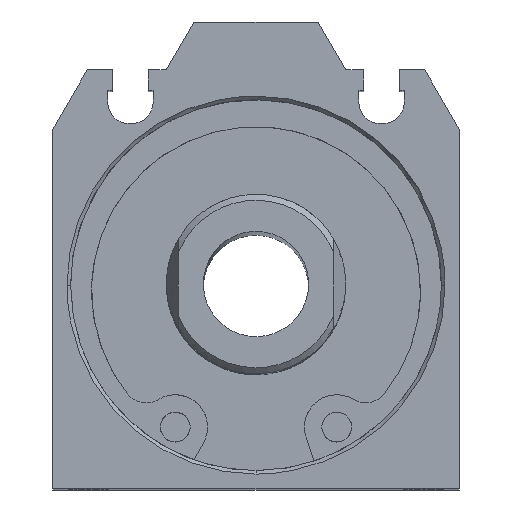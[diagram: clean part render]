
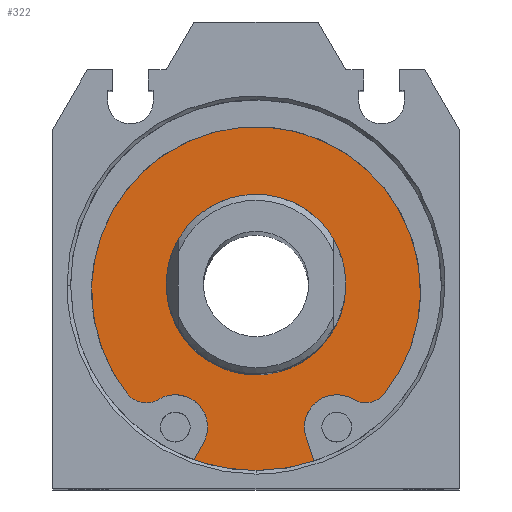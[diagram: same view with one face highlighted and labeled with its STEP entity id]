
A CAD part, top view. The second image highlights one B-rep face of the part: STEP entity #322.
In plain terms, the highlighted free-form (B-spline) face has degree [1, 1] with [2, 2] control points.
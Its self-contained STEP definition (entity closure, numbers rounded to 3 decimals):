
#322=ADVANCED_FACE('',(#688,#689),#690,.T.);
#688=FACE_OUTER_BOUND('',#1829,.T.);
#689=FACE_BOUND('',#1830,.T.);
#690=B_SPLINE_SURFACE_WITH_KNOTS('',1,1,((#1831,#1832),(#1833,#1834)),.UNSPECIFIED.,.F.,.F.,.F.,(2,2),(2,2),(0.0,1.0),(0.0,1.0),.UNSPECIFIED.);
#1829=EDGE_LOOP('',(#3338,#3339,#3340,#3341,#3342,#3343,#3344,#3345,#3346,#3347));
#1830=EDGE_LOOP('',(#3348,#3349));
#1831=CARTESIAN_POINT('',(-52.122,52.122,-3.5));
#1832=CARTESIAN_POINT('',(52.122,52.122,-3.5));
#1833=CARTESIAN_POINT('',(-52.122,-52.122,-3.5));
#1834=CARTESIAN_POINT('',(52.122,-52.122,-3.5));
#3338=ORIENTED_EDGE('',*,*,#4034,.T.);
#3339=ORIENTED_EDGE('',*,*,#4035,.T.);
#3340=ORIENTED_EDGE('',*,*,#4016,.T.);
#3341=ORIENTED_EDGE('',*,*,#4036,.T.);
#3342=ORIENTED_EDGE('',*,*,#4037,.T.);
#3343=ORIENTED_EDGE('',*,*,#4038,.T.);
#3344=ORIENTED_EDGE('',*,*,#4039,.T.);
#3345=ORIENTED_EDGE('',*,*,#4040,.T.);
#3346=ORIENTED_EDGE('',*,*,#4041,.T.);
#3347=ORIENTED_EDGE('',*,*,#4042,.T.);
#3348=ORIENTED_EDGE('',*,*,#4043,.F.);
#3349=ORIENTED_EDGE('',*,*,#4044,.F.);
#4016=EDGE_CURVE('',#4668,#4672,#4674,.T.);
#4034=EDGE_CURVE('',#4696,#4697,#4698,.T.);
#4035=EDGE_CURVE('',#4697,#4668,#4699,.T.);
#4036=EDGE_CURVE('',#4672,#4700,#4701,.T.);
#4037=EDGE_CURVE('',#4700,#4702,#4703,.T.);
#4038=EDGE_CURVE('',#4702,#4704,#4705,.T.);
#4039=EDGE_CURVE('',#4704,#4706,#4707,.T.);
#4040=EDGE_CURVE('',#4706,#4708,#4709,.T.);
#4041=EDGE_CURVE('',#4708,#4710,#4711,.T.);
#4042=EDGE_CURVE('',#4710,#4696,#4712,.T.);
#4043=EDGE_CURVE('',#4713,#4714,#4715,.T.);
#4044=EDGE_CURVE('',#4714,#4713,#4716,.T.);
#4668=VERTEX_POINT('',#6846);
#4672=VERTEX_POINT('',#6852);
#4674=B_SPLINE_CURVE_WITH_KNOTS('',1,(#6855,#6856),.UNSPECIFIED.,.F.,.F.,(2,2),(0.0,1.0),.UNSPECIFIED.);
#4696=VERTEX_POINT('',#6919);
#4697=VERTEX_POINT('',#6920);
#4698=(B_SPLINE_CURVE(2,(#6922,#6923,#6924),.UNSPECIFIED.,.F.,.F.)B_SPLINE_CURVE_WITH_KNOTS((3,3),(0.0,1.0),.UNSPECIFIED.)RATIONAL_B_SPLINE_CURVE((1.0,0.943,1.0))BOUNDED_CURVE()REPRESENTATION_ITEM('')GEOMETRIC_REPRESENTATION_ITEM()CURVE());
#4699=(B_SPLINE_CURVE(2,(#6932,#6933,#6934),.UNSPECIFIED.,.F.,.F.)B_SPLINE_CURVE_WITH_KNOTS((3,3),(0.0,1.0),.UNSPECIFIED.)RATIONAL_B_SPLINE_CURVE((1.0,0.956,1.0))BOUNDED_CURVE()REPRESENTATION_ITEM('')GEOMETRIC_REPRESENTATION_ITEM()CURVE());
#4700=VERTEX_POINT('',#6941);
#4701=(B_SPLINE_CURVE(2,(#6943,#6944,#6945,#6946,#6947),.UNSPECIFIED.,.F.,.F.)B_SPLINE_CURVE_WITH_KNOTS((3,2,3),(0.0,0.5,1.0),.UNSPECIFIED.)RATIONAL_B_SPLINE_CURVE((1.0,0.821,1.0,0.821,1.0))BOUNDED_CURVE()REPRESENTATION_ITEM('')GEOMETRIC_REPRESENTATION_ITEM()CURVE());
#4702=VERTEX_POINT('',#6954);
#4703=(B_SPLINE_CURVE(2,(#6956,#6957,#6958),.UNSPECIFIED.,.F.,.F.)B_SPLINE_CURVE_WITH_KNOTS((3,3),(0.0,1.0),.UNSPECIFIED.)RATIONAL_B_SPLINE_CURVE((1.0,0.752,1.0))BOUNDED_CURVE()REPRESENTATION_ITEM('')GEOMETRIC_REPRESENTATION_ITEM()CURVE());
#4704=VERTEX_POINT('',#6965);
#4705=(B_SPLINE_CURVE(2,(#6967,#6968,#6969,#6970,#6971,#6972,#6973),.UNSPECIFIED.,.F.,.F.)B_SPLINE_CURVE_WITH_KNOTS((3,2,2,3),(0.0,0.333,0.667,1.0),.UNSPECIFIED.)RATIONAL_B_SPLINE_CURVE((1.0,0.733,1.0,0.733,1.0,0.733,1.0))BOUNDED_CURVE()REPRESENTATION_ITEM('')GEOMETRIC_REPRESENTATION_ITEM()CURVE());
#4706=VERTEX_POINT('',#6980);
#4707=(B_SPLINE_CURVE(2,(#6982,#6983,#6984),.UNSPECIFIED.,.F.,.F.)B_SPLINE_CURVE_WITH_KNOTS((3,3),(0.0,1.0),.UNSPECIFIED.)RATIONAL_B_SPLINE_CURVE((1.0,0.752,1.0))BOUNDED_CURVE()REPRESENTATION_ITEM('')GEOMETRIC_REPRESENTATION_ITEM()CURVE());
#4708=VERTEX_POINT('',#6991);
#4709=(B_SPLINE_CURVE(2,(#6993,#6994,#6995,#6996,#6997),.UNSPECIFIED.,.F.,.F.)B_SPLINE_CURVE_WITH_KNOTS((3,2,3),(0.0,0.5,1.0),.UNSPECIFIED.)RATIONAL_B_SPLINE_CURVE((1.0,0.791,1.0,0.791,1.0))BOUNDED_CURVE()REPRESENTATION_ITEM('')GEOMETRIC_REPRESENTATION_ITEM()CURVE());
#4710=VERTEX_POINT('',#7004);
#4711=B_SPLINE_CURVE_WITH_KNOTS('',1,(#7005,#7006),.UNSPECIFIED.,.F.,.F.,(2,2),(0.0,1.0),.UNSPECIFIED.);
#4712=(B_SPLINE_CURVE(2,(#7008,#7009,#7010),.UNSPECIFIED.,.F.,.F.)B_SPLINE_CURVE_WITH_KNOTS((3,3),(0.0,1.0),.UNSPECIFIED.)RATIONAL_B_SPLINE_CURVE((1.0,0.952,1.0))BOUNDED_CURVE()REPRESENTATION_ITEM('')GEOMETRIC_REPRESENTATION_ITEM()CURVE());
#4713=VERTEX_POINT('',#7017);
#4714=VERTEX_POINT('',#7018);
#4715=(B_SPLINE_CURVE(2,(#7020,#7021,#7022,#7023,#7024),.UNSPECIFIED.,.F.,.F.)B_SPLINE_CURVE_WITH_KNOTS((3,2,3),(0.0,0.5,1.0),.UNSPECIFIED.)RATIONAL_B_SPLINE_CURVE((1.0,0.707,1.0,0.707,1.0))BOUNDED_CURVE()REPRESENTATION_ITEM('')GEOMETRIC_REPRESENTATION_ITEM()CURVE());
#4716=(B_SPLINE_CURVE(2,(#7032,#7033,#7034,#7035,#7036),.UNSPECIFIED.,.F.,.F.)B_SPLINE_CURVE_WITH_KNOTS((3,2,3),(0.0,0.5,1.0),.UNSPECIFIED.)RATIONAL_B_SPLINE_CURVE((1.0,0.707,1.0,0.707,1.0))BOUNDED_CURVE()REPRESENTATION_ITEM('')GEOMETRIC_REPRESENTATION_ITEM()CURVE());
#6846=CARTESIAN_POINT('',(5.026,-15.262,-3.5));
#6852=CARTESIAN_POINT('',(4.185,-12.709,-3.5));
#6855=CARTESIAN_POINT('',(5.026,-15.262,-3.5));
#6856=CARTESIAN_POINT('',(4.185,-12.709,-3.5));
#6919=CARTESIAN_POINT('',(-5.716,-15.318,-3.5));
#6920=CARTESIAN_POINT('',(5.197,-15.502,-3.5));
#6922=CARTESIAN_POINT('',(-5.716,-15.318,-3.5));
#6923=CARTESIAN_POINT('',(-0.292,-17.342,-3.5));
#6924=CARTESIAN_POINT('',(5.197,-15.502,-3.5));
#6932=CARTESIAN_POINT('',(5.197,-15.502,-3.5));
#6933=CARTESIAN_POINT('',(5.075,-15.408,-3.5));
#6934=CARTESIAN_POINT('',(5.026,-15.262,-3.5));
#6941=CARTESIAN_POINT('',(8.144,-9.552,-3.5));
#6943=CARTESIAN_POINT('',(4.185,-12.709,-3.5));
#6944=CARTESIAN_POINT('',(3.598,-10.925,-3.5));
#6945=CARTESIAN_POINT('',(5.066,-9.753,-3.5));
#6946=CARTESIAN_POINT('',(6.535,-8.582,-3.5));
#6947=CARTESIAN_POINT('',(8.144,-9.552,-3.5));
#6954=CARTESIAN_POINT('',(10.738,-9.088,-3.5));
#6956=CARTESIAN_POINT('',(8.144,-9.552,-3.5));
#6957=CARTESIAN_POINT('',(9.644,-10.456,-3.5));
#6958=CARTESIAN_POINT('',(10.738,-9.088,-3.5));
#6965=CARTESIAN_POINT('',(-10.738,-9.088,-3.5));
#6967=CARTESIAN_POINT('',(10.738,-9.088,-3.5));
#6968=CARTESIAN_POINT('',(18.714,0.885,-3.5));
#6969=CARTESIAN_POINT('',(9.357,9.575,-3.5));
#6970=CARTESIAN_POINT('',(0.,18.265,-3.5));
#6971=CARTESIAN_POINT('',(-9.357,9.575,-3.5));
#6972=CARTESIAN_POINT('',(-18.714,0.885,-3.5));
#6973=CARTESIAN_POINT('',(-10.738,-9.088,-3.5));
#6980=CARTESIAN_POINT('',(-8.144,-9.552,-3.5));
#6982=CARTESIAN_POINT('',(-10.738,-9.088,-3.5));
#6983=CARTESIAN_POINT('',(-9.644,-10.456,-3.5));
#6984=CARTESIAN_POINT('',(-8.144,-9.552,-3.5));
#6991=CARTESIAN_POINT('',(-4.403,-13.199,-3.5));
#6993=CARTESIAN_POINT('',(-8.144,-9.552,-3.5));
#6994=CARTESIAN_POINT('',(-6.358,-8.475,-3.5));
#6995=CARTESIAN_POINT('',(-4.865,-9.931,-3.5));
#6996=CARTESIAN_POINT('',(-3.372,-11.387,-3.5));
#6997=CARTESIAN_POINT('',(-4.403,-13.199,-3.5));
#7004=CARTESIAN_POINT('',(-5.491,-15.112,-3.5));
#7005=CARTESIAN_POINT('',(-4.403,-13.199,-3.5));
#7006=CARTESIAN_POINT('',(-5.491,-15.112,-3.5));
#7008=CARTESIAN_POINT('',(-5.491,-15.112,-3.5));
#7009=CARTESIAN_POINT('',(-5.57,-15.251,-3.5));
#7010=CARTESIAN_POINT('',(-5.716,-15.318,-3.5));
#7017=CARTESIAN_POINT('',(0.0,7.5,-3.5));
#7018=CARTESIAN_POINT('',(0.0,-7.5,-3.5));
#7020=CARTESIAN_POINT('',(0.0,7.5,-3.5));
#7021=CARTESIAN_POINT('',(-7.5,7.5,-3.5));
#7022=CARTESIAN_POINT('',(-7.5,0.,-3.5));
#7023=CARTESIAN_POINT('',(-7.5,-7.5,-3.5));
#7024=CARTESIAN_POINT('',(0.,-7.5,-3.5));
#7032=CARTESIAN_POINT('',(0.,-7.5,-3.5));
#7033=CARTESIAN_POINT('',(7.5,-7.5,-3.5));
#7034=CARTESIAN_POINT('',(7.5,0.,-3.5));
#7035=CARTESIAN_POINT('',(7.5,7.5,-3.5));
#7036=CARTESIAN_POINT('',(0.0,7.5,-3.5));
